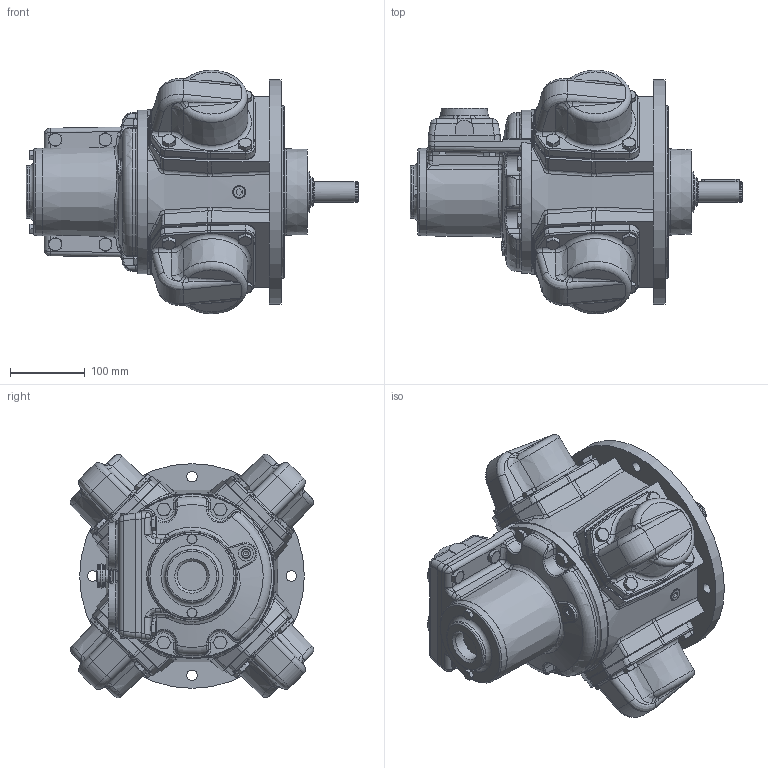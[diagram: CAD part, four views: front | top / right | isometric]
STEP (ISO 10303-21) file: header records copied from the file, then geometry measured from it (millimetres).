
FILE_DESCRIPTION (( 'STEP AP214' ), '1' );
FILE_NAME ('RM410.STEP', '2022-06-21T10:31:46', ( '' ), ( '' ), 'SwSTEP 2.0', 'SolidWorks 2020', '' );
FILE_SCHEMA (( 'AUTOMOTIVE_DESIGN' ));
Length unit declared in the file: millimetre
Products named in the file (1): RM410
Bounding box: 443.23 x 324.89 x 324.89 mm (x, y, z)
Volume: 15019941.7 mm3; surface area: 529654 mm2
Topology: 1 solids, 1 shells, 1788 faces, 4383 edges, 2658 vertices
Faces by surface type: plane 804, cylinder 316, bspline 314, cone 279, torus 69, sphere 6
Full cylindrical faces by diameter (mm): 3.1 x2, 3.175 x1, 12.453 x2, 13.157 x1, 14 x4, 16 x4, 17 x24, 18 x4, 20 x1, 28.002 x1, 38.05 x1, 39.5 x3, 54 x1, 56.1 x1, 77.7 x1, 90 x1, 218 x1, 229.965 x1, 300 x1
Entity records: 80870 total; most frequent: CARTESIAN_POINT 41165, ORIENTED_EDGE 8462, DIRECTION 7067, EDGE_CURVE 4231, AXIS2_PLACEMENT_3D 2732, VERTEX_POINT 2619, EDGE_LOOP 1968, FACE_OUTER_BOUND 1852
